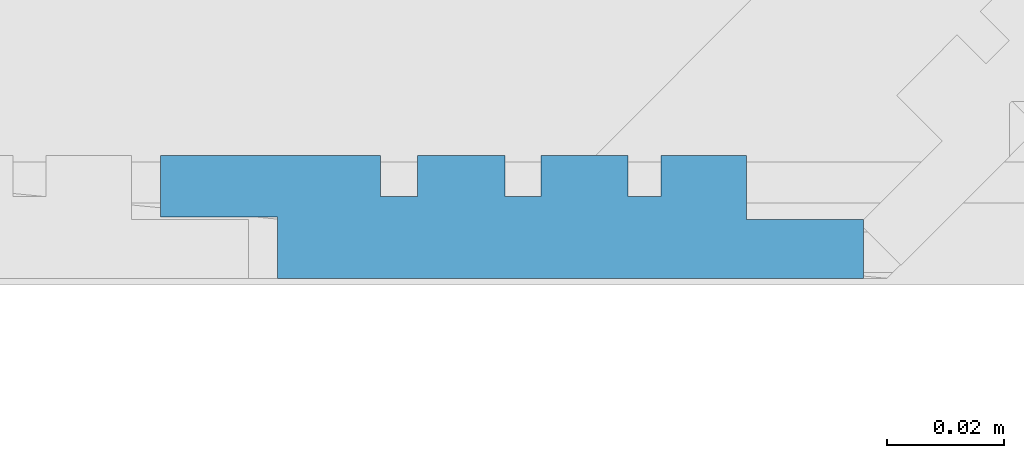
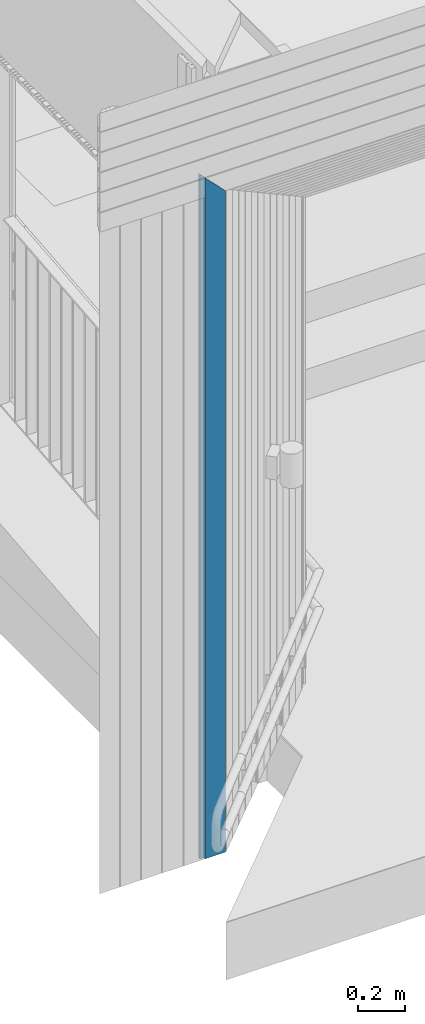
# One storey, part 97 of 418: 1 building element part, 1 element without a shape of its own.
"""IFC2X3 building model written with IfcOpenShell, lengths in millimetres."""

from ifc_helpers import new_model, entity, si_unit, converted_unit, derived_unit, money_unit, direction, frame, origin_with_axes, place, context, subcontext, project, spatial, polyline, outline, extrude, boolean, faceted_brep, material, type_object, element, aggregate, save


model = new_model("IFC2X3")

# Units and contexts
model_context = context("Model", 3, precision=0.01, world=origin_with_axes(), true_north=direction((0.0, 1.0)))
body_context = subcontext(model_context, "Body", "Model", "MODEL_VIEW")
ifc_project = project(units=[si_unit("LENGTHUNIT", "METRE", prefix="MILLI"), si_unit("AREAUNIT", "SQUARE_METRE"), si_unit("VOLUMEUNIT", "CUBIC_METRE"), converted_unit("PLANEANGLEUNIT", "DEGREE", entity("IfcPlaneAngleMeasure", 0.0174532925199), si_unit("PLANEANGLEUNIT", "RADIAN"), dimensions=[0, 0, 0, 0, 0, 0, 0]), si_unit("SOLIDANGLEUNIT", "STERADIAN"), money_unit("EUR"), converted_unit("TIMEUNIT", "Year", entity("IfcTimeMeasure", 31556926.0), si_unit("TIMEUNIT", "SECOND"), dimensions=[0, 0, 1, 0, 0, 0, 0]), si_unit("MASSUNIT", "GRAM", prefix="KILO"), si_unit("THERMODYNAMICTEMPERATUREUNIT", "DEGREE_CELSIUS"), si_unit("LUMINOUSINTENSITYUNIT", "LUMEN"), si_unit("ENERGYUNIT", "JOULE", prefix="MEGA"), derived_unit("THERMALCONDUCTANCEUNIT", [(si_unit("POWERUNIT", "WATT"), 1), (si_unit("LENGTHUNIT", "METRE"), -1), (si_unit("THERMODYNAMICTEMPERATUREUNIT", "KELVIN"), -1)]), derived_unit("SPECIFICHEATCAPACITYUNIT", [(si_unit("ENERGYUNIT", "JOULE"), 1), (si_unit("MASSUNIT", "GRAM", prefix="KILO"), -1), (si_unit("THERMODYNAMICTEMPERATUREUNIT", "KELVIN"), -1)]), derived_unit("MASSDENSITYUNIT", [(si_unit("MASSUNIT", "GRAM", prefix="KILO"), 1), (si_unit("VOLUMEUNIT", "CUBIC_METRE"), -1)])], contexts=[model_context])

# Site, building, storey
site_placement = place(None, origin_with_axes())
site = spatial("IfcSite", under=ifc_project, at=site_placement, Name="Paldiski mnt 245/1, Tallinn, Harjumaa", CompositionType="COMPLEX")
building_placement = place(site_placement, origin_with_axes())
building = spatial("IfcBuilding", under=site, at=building_placement, Name="RKAS Hoone üldnimetus (kasutust iseloomustav) -> IFC Project Manager -> SOLIBRI", CompositionType="ELEMENT")
storey_placement = place(building_placement, origin_with_axes())
storey = spatial("IfcBuildingStorey", under=building, at=storey_placement, Name="Esimene korrus", CompositionType="ELEMENT", Elevation=0.0)

# Proxy, building element part
building_element_proxy_type = type_object("IfcBuildingElementProxyType", Name="Laudis esiprofiil_01 21 x 622", PredefinedType="NOTDEFINED")
proxy_placement = place(storey_placement, frame((-45641.4622152, -18705.5141429, 0.0), z_axis=(0.0, 0.0, 1.0), x_axis=(0.0, 1.0, 0.0)))
proxy = element("IfcBuildingElementProxy", 1, at=proxy_placement, inside=storey, type_object=building_element_proxy_type, Name="Varikatus")
ifc_material = material(Name="Laudis 5072 Honka 45 horisontaalne raastas")
building_element_part_placement = place(proxy_placement, origin_with_axes())
building_element_part = element("IfcBuildingElementPart", 2, at=building_element_part_placement, material=ifc_material, Name="Laudis 5072 Honka 45 horisontaalne raastas", context=body_context, shape_type="CSG", body=[
    boolean("DIFFERENCE", boolean("DIFFERENCE", boolean("DIFFERENCE", boolean("DIFFERENCE", boolean("DIFFERENCE", boolean("DIFFERENCE", extrude(outline(polyline([(3.20348192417e-08, -520.971430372), (-10.5000010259, -520.971430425), (-10.5000005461, -500.971429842), (-20.9999998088, -500.971430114), (-21.0000010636, -538.497524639), (-14.0000005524, -538.497525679), (-14.0000003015, -544.860022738), (-20.99999981, -544.860022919), (-20.9999998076, -559.79914009), (-14.0000002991, -559.799139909), (-14.0000007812, -565.926080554), (-21.0000002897, -565.926080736), (-21.0000013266, -580.754573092), (-14.0000008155, -580.754574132), (-14.0000015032, -586.395242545), (-21.0000010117, -586.395242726), (-21.0000007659, -600.971429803), (-10.000001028, -600.971430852), (-10.0000002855, -620.971430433), (-7.63172636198e-07, -620.971430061), (3.20348192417e-08, -520.971430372)])), frame((0.0, 0.0, 0.0), z_axis=(0.0, 0.0, -1.0), x_axis=(-1.0, 0.0, 0.0)), (0.0, 0.0, -1.0), 4086.15997799), faceted_brep([(7.63172636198e-07, -515.971430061, 3569.02857112), (10.0000002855, -515.971430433, 3569.02857075), (10.0000002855, -515.971430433, 4086.15997799), (7.63172636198e-07, -515.971430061, 4086.15997799), (10.000001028, -495.971430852, 3589.02857033), (-3.20348192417e-08, -415.971430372, 3669.02857081), (10.5000010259, -415.971430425, 3669.02857076), (10.5000005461, -395.971429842, 3689.02857134), (20.9999998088, -395.971430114, 3689.02857107), (21.0000010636, -433.497524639, 3651.50247655), (14.0000005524, -433.497525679, 3651.50247551), (14.0000003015, -439.860022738, 3645.13997845), (20.99999981, -439.860022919, 3645.13997827), (20.9999998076, -454.79914009, 3630.20086109), (14.0000002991, -454.799139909, 3630.20086128), (14.0000007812, -460.926080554, 3624.07392063), (21.0000002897, -460.926080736, 3624.07392045), (21.0000013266, -475.754573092, 3609.24542809), (14.0000008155, -475.754574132, 3609.24542705), (14.0000015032, -481.395242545, 3603.60475864), (21.0000010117, -481.395242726, 3603.60475846), (21.0000007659, -495.971429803, 3589.02857138), (10.000001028, -495.971430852, 4086.15997799), (10.5000010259, -415.971430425, 4086.15997799), (-3.20348192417e-08, -415.971430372, 4086.15997799), (21.0000007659, -495.971429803, 4086.15997799), (21.0000010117, -481.395242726, 4086.15997799), (14.0000015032, -481.395242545, 4086.15997799), (14.0000008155, -475.754574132, 4086.15997799), (21.0000013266, -475.754573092, 4086.15997799), (21.0000002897, -460.926080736, 4086.15997799), (14.0000007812, -460.926080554, 4086.15997799), (14.0000002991, -454.799139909, 4086.15997799), (20.9999998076, -454.79914009, 4086.15997799), (20.99999981, -439.860022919, 4086.15997799), (14.0000003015, -439.860022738, 4086.15997799), (14.0000005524, -433.497525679, 4086.15997799), (21.0000010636, -433.497524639, 4086.15997799), (20.9999998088, -395.971430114, 4086.15997799), (10.5000005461, -395.971429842, 4086.15997799)], [[[0, 1, 2, 3]], [[4, 1, 0, 5, 6, 7, 8, 9, 10, 11, 12, 13, 14, 15, 16, 17, 18, 19, 20, 21]], [[1, 4, 22, 2]], [[23, 24, 3, 2, 22, 25, 26, 27, 28, 29, 30, 31, 32, 33, 34, 35, 36, 37, 38, 39]], [[5, 0, 3, 24]], [[6, 5, 24, 23]], [[7, 6, 23, 39]], [[8, 7, 39, 38]], [[9, 8, 38, 37]], [[10, 9, 37, 36]], [[11, 10, 36, 35]], [[12, 11, 35, 34]], [[13, 12, 34, 33]], [[14, 13, 33, 32]], [[15, 14, 32, 31]], [[16, 15, 31, 30]], [[17, 16, 30, 29]], [[18, 17, 29, 28]], [[19, 18, 28, 27]], [[20, 19, 27, 26]], [[21, 20, 26, 25]], [[4, 21, 25, 22]]])), faceted_brep([(7.63172636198e-07, -620.971430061, 3464.02857112), (10.0000002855, -620.971430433, 3464.02857075), (10.0000002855, -620.971430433, 4086.15997799), (7.63172636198e-07, -620.971430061, 4086.15997799), (10.000001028, -600.971430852, 3484.02857033), (-3.20348192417e-08, -520.971430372, 3564.02857081), (10.5000010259, -520.971430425, 3564.02857076), (10.5000005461, -500.971429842, 3584.02857134), (20.9999998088, -500.971430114, 3584.02857107), (21.0000010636, -538.497524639, 3546.50247655), (14.0000005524, -538.497525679, 3546.50247551), (14.0000003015, -544.860022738, 3540.13997845), (20.99999981, -544.860022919, 3540.13997827), (20.9999998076, -559.79914009, 3525.20086109), (14.0000002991, -559.799139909, 3525.20086128), (14.0000007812, -565.926080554, 3519.07392063), (21.0000002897, -565.926080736, 3519.07392045), (21.0000013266, -580.754573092, 3504.24542809), (14.0000008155, -580.754574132, 3504.24542705), (14.0000015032, -586.395242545, 3498.60475864), (21.0000010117, -586.395242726, 3498.60475846), (21.0000007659, -600.971429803, 3484.02857138), (10.000001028, -600.971430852, 4086.15997799), (10.5000010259, -520.971430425, 4086.15997799), (-3.20348192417e-08, -520.971430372, 4086.15997799), (21.0000007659, -600.971429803, 4086.15997799), (21.0000010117, -586.395242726, 4086.15997799), (14.0000015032, -586.395242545, 4086.15997799), (14.0000008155, -580.754574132, 4086.15997799), (21.0000013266, -580.754573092, 4086.15997799), (21.0000002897, -565.926080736, 4086.15997799), (14.0000007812, -565.926080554, 4086.15997799), (14.0000002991, -559.799139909, 4086.15997799), (20.9999998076, -559.79914009, 4086.15997799), (20.99999981, -544.860022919, 4086.15997799), (14.0000003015, -544.860022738, 4086.15997799), (14.0000005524, -538.497525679, 4086.15997799), (21.0000010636, -538.497524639, 4086.15997799), (20.9999998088, -500.971430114, 4086.15997799), (10.5000005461, -500.971429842, 4086.15997799)], [[[0, 1, 2, 3]], [[4, 1, 0, 5, 6, 7, 8, 9, 10, 11, 12, 13, 14, 15, 16, 17, 18, 19, 20, 21]], [[1, 4, 22, 2]], [[23, 24, 3, 2, 22, 25, 26, 27, 28, 29, 30, 31, 32, 33, 34, 35, 36, 37, 38, 39]], [[5, 0, 3, 24]], [[6, 5, 24, 23]], [[7, 6, 23, 39]], [[8, 7, 39, 38]], [[9, 8, 38, 37]], [[10, 9, 37, 36]], [[11, 10, 36, 35]], [[12, 11, 35, 34]], [[13, 12, 34, 33]], [[14, 13, 33, 32]], [[15, 14, 32, 31]], [[16, 15, 31, 30]], [[17, 16, 30, 29]], [[18, 17, 29, 28]], [[19, 18, 28, 27]], [[20, 19, 27, 26]], [[21, 20, 26, 25]], [[4, 21, 25, 22]]])), faceted_brep([(7.63172636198e-07, -305.971430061, 3779.02857112), (10.0000002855, -305.971430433, 3779.02857075), (10.0000002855, -305.971430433, 4086.15997799), (7.63172636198e-07, -305.971430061, 4086.15997799), (10.000001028, -285.971430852, 3799.02857033), (-3.20348192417e-08, -205.971430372, 3879.02857081), (10.5000010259, -205.971430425, 3879.02857076), (10.5000005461, -185.971429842, 3899.02857134), (20.9999998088, -185.971430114, 3899.02857107), (21.0000010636, -223.497524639, 3861.50247655), (14.0000005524, -223.497525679, 3861.50247551), (14.0000003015, -229.860022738, 3855.13997845), (20.99999981, -229.860022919, 3855.13997827), (20.9999998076, -244.79914009, 3840.20086109), (14.0000002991, -244.799139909, 3840.20086128), (14.0000007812, -250.926080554, 3834.07392063), (21.0000002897, -250.926080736, 3834.07392045), (21.0000013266, -265.754573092, 3819.24542809), (14.0000008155, -265.754574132, 3819.24542705), (14.0000015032, -271.395242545, 3813.60475864), (21.0000010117, -271.395242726, 3813.60475846), (21.0000007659, -285.971429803, 3799.02857138), (10.000001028, -285.971430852, 4086.15997799), (10.5000010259, -205.971430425, 4086.15997799), (-3.20348192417e-08, -205.971430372, 4086.15997799), (21.0000007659, -285.971429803, 4086.15997799), (21.0000010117, -271.395242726, 4086.15997799), (14.0000015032, -271.395242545, 4086.15997799), (14.0000008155, -265.754574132, 4086.15997799), (21.0000013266, -265.754573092, 4086.15997799), (21.0000002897, -250.926080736, 4086.15997799), (14.0000007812, -250.926080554, 4086.15997799), (14.0000002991, -244.799139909, 4086.15997799), (20.9999998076, -244.79914009, 4086.15997799), (20.99999981, -229.860022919, 4086.15997799), (14.0000003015, -229.860022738, 4086.15997799), (14.0000005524, -223.497525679, 4086.15997799), (21.0000010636, -223.497524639, 4086.15997799), (20.9999998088, -185.971430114, 4086.15997799), (10.5000005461, -185.971429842, 4086.15997799)], [[[0, 1, 2, 3]], [[4, 1, 0, 5, 6, 7, 8, 9, 10, 11, 12, 13, 14, 15, 16, 17, 18, 19, 20, 21]], [[1, 4, 22, 2]], [[23, 24, 3, 2, 22, 25, 26, 27, 28, 29, 30, 31, 32, 33, 34, 35, 36, 37, 38, 39]], [[5, 0, 3, 24]], [[6, 5, 24, 23]], [[7, 6, 23, 39]], [[8, 7, 39, 38]], [[9, 8, 38, 37]], [[10, 9, 37, 36]], [[11, 10, 36, 35]], [[12, 11, 35, 34]], [[13, 12, 34, 33]], [[14, 13, 33, 32]], [[15, 14, 32, 31]], [[16, 15, 31, 30]], [[17, 16, 30, 29]], [[18, 17, 29, 28]], [[19, 18, 28, 27]], [[20, 19, 27, 26]], [[21, 20, 26, 25]], [[4, 21, 25, 22]]])), faceted_brep([(7.63172636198e-07, -410.971430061, 3674.02857112), (10.0000002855, -410.971430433, 3674.02857075), (10.0000002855, -410.971430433, 4086.15997799), (7.63172636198e-07, -410.971430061, 4086.15997799), (10.000001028, -390.971430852, 3694.02857033), (-3.20348192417e-08, -310.971430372, 3774.02857081), (10.5000010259, -310.971430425, 3774.02857076), (10.5000005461, -290.971429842, 3794.02857134), (20.9999998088, -290.971430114, 3794.02857107), (21.0000010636, -328.497524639, 3756.50247655), (14.0000005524, -328.497525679, 3756.50247551), (14.0000003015, -334.860022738, 3750.13997845), (20.99999981, -334.860022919, 3750.13997827), (20.9999998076, -349.79914009, 3735.20086109), (14.0000002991, -349.799139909, 3735.20086128), (14.0000007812, -355.926080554, 3729.07392063), (21.0000002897, -355.926080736, 3729.07392045), (21.0000013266, -370.754573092, 3714.24542809), (14.0000008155, -370.754574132, 3714.24542705), (14.0000015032, -376.395242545, 3708.60475864), (21.0000010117, -376.395242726, 3708.60475846), (21.0000007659, -390.971429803, 3694.02857138), (10.000001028, -390.971430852, 4086.15997799), (10.5000010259, -310.971430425, 4086.15997799), (-3.20348192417e-08, -310.971430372, 4086.15997799), (21.0000007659, -390.971429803, 4086.15997799), (21.0000010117, -376.395242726, 4086.15997799), (14.0000015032, -376.395242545, 4086.15997799), (14.0000008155, -370.754574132, 4086.15997799), (21.0000013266, -370.754573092, 4086.15997799), (21.0000002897, -355.926080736, 4086.15997799), (14.0000007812, -355.926080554, 4086.15997799), (14.0000002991, -349.799139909, 4086.15997799), (20.9999998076, -349.79914009, 4086.15997799), (20.99999981, -334.860022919, 4086.15997799), (14.0000003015, -334.860022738, 4086.15997799), (14.0000005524, -328.497525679, 4086.15997799), (21.0000010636, -328.497524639, 4086.15997799), (20.9999998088, -290.971430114, 4086.15997799), (10.5000005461, -290.971429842, 4086.15997799)], [[[0, 1, 2, 3]], [[4, 1, 0, 5, 6, 7, 8, 9, 10, 11, 12, 13, 14, 15, 16, 17, 18, 19, 20, 21]], [[1, 4, 22, 2]], [[23, 24, 3, 2, 22, 25, 26, 27, 28, 29, 30, 31, 32, 33, 34, 35, 36, 37, 38, 39]], [[5, 0, 3, 24]], [[6, 5, 24, 23]], [[7, 6, 23, 39]], [[8, 7, 39, 38]], [[9, 8, 38, 37]], [[10, 9, 37, 36]], [[11, 10, 36, 35]], [[12, 11, 35, 34]], [[13, 12, 34, 33]], [[14, 13, 33, 32]], [[15, 14, 32, 31]], [[16, 15, 31, 30]], [[17, 16, 30, 29]], [[18, 17, 29, 28]], [[19, 18, 28, 27]], [[20, 19, 27, 26]], [[21, 20, 26, 25]], [[4, 21, 25, 22]]])), faceted_brep([(1.4387921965e-06, -95.9714304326, 3989.02857075), (10.0000000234, -95.9714304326, 3989.02857075), (10.0000000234, -95.9714304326, 4086.15997799), (1.4387921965e-06, -95.9714304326, 4086.15997799), (10.0000014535, -75.9714304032, 4009.02857078), (-8.28137558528e-09, 1.13997680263, 4086.13997799), (14.0000008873, -12.860024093, 4072.13997709), (14.0000008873, -19.8600231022, 4065.13997808), (20.9999998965, -19.8600231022, 4065.13997808), (20.9999998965, -34.7991407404, 4050.20086044), (14.0000008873, -34.7991393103, 4050.20086187), (14.0000008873, -40.9260801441, 4044.07392104), (20.9999998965, -40.9260801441, 4044.07392104), (21.0000013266, -55.7545733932, 4029.24542779), (14.0000008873, -55.7545748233, 4029.24542636), (14.0000008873, -61.3952431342, 4023.60475805), (21.0000013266, -61.3952431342, 4023.60475805), (21.0000013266, -75.9714304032, 4009.02857078), (10.0000014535, -75.9714304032, 4086.15997799), (14.0000008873, -55.7545748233, 4086.15997799), (21.0000013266, -55.7545733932, 4086.15997799), (20.9999998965, -40.9260801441, 4086.15997799), (14.0000008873, -40.9260801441, 4086.15997799), (14.0000008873, -34.7991393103, 4086.15997799), (20.9999998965, -34.7991407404, 4086.15997799), (20.9999998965, -19.8600231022, 4086.15997799), (14.0000008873, -19.8600231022, 4086.15997799), (14.0000008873, -12.860024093, 4086.15997799), (-8.28137558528e-09, 1.13997680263, 4086.15997799), (21.0000013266, -75.9714304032, 4086.15997799), (21.0000013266, -61.3952431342, 4086.15997799), (14.0000008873, -61.3952431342, 4086.15997799)], [[[0, 1, 2, 3]], [[4, 1, 0, 5, 6, 7, 8, 9, 10, 11, 12, 13, 14, 15, 16, 17]], [[1, 4, 18, 2]], [[19, 20, 21, 22, 23, 24, 25, 26, 27, 28, 3, 2, 18, 29, 30, 31]], [[5, 0, 3, 28]], [[6, 5, 28, 27]], [[7, 6, 27, 26]], [[8, 7, 26, 25]], [[9, 8, 25, 24]], [[10, 9, 24, 23]], [[11, 10, 23, 22]], [[12, 11, 22, 21]], [[13, 12, 21, 20]], [[14, 13, 20, 19]], [[15, 14, 19, 31]], [[16, 15, 31, 30]], [[17, 16, 30, 29]], [[4, 17, 29, 18]]])), faceted_brep([(7.63172636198e-07, -200.971430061, 3884.02857112), (10.0000002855, -200.971430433, 3884.02857075), (10.0000002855, -200.971430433, 4086.15997799), (7.63172636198e-07, -200.971430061, 4086.15997799), (10.000001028, -180.971430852, 3904.02857033), (-3.20348192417e-08, -100.971430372, 3984.02857081), (10.5000010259, -100.971430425, 3984.02857076), (10.5000005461, -80.9714298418, 4004.02857134), (20.9999998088, -80.9714301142, 4004.02857107), (21.0000010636, -118.497524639, 3966.50247655), (14.0000005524, -118.497525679, 3966.50247551), (14.0000003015, -124.860022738, 3960.13997845), (20.99999981, -124.860022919, 3960.13997827), (20.9999998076, -139.79914009, 3945.20086109), (14.0000002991, -139.799139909, 3945.20086128), (14.0000007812, -145.926080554, 3939.07392063), (21.0000002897, -145.926080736, 3939.07392045), (21.0000013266, -160.754573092, 3924.24542809), (14.0000008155, -160.754574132, 3924.24542705), (14.0000015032, -166.395242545, 3918.60475864), (21.0000010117, -166.395242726, 3918.60475846), (21.0000007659, -180.971429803, 3904.02857138), (10.000001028, -180.971430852, 4086.15997799), (10.5000010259, -100.971430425, 4086.15997799), (-3.20348192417e-08, -100.971430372, 4086.15997799), (21.0000007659, -180.971429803, 4086.15997799), (21.0000010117, -166.395242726, 4086.15997799), (14.0000015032, -166.395242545, 4086.15997799), (14.0000008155, -160.754574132, 4086.15997799), (21.0000013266, -160.754573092, 4086.15997799), (21.0000002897, -145.926080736, 4086.15997799), (14.0000007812, -145.926080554, 4086.15997799), (14.0000002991, -139.799139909, 4086.15997799), (20.9999998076, -139.79914009, 4086.15997799), (20.99999981, -124.860022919, 4086.15997799), (14.0000003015, -124.860022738, 4086.15997799), (14.0000005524, -118.497525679, 4086.15997799), (21.0000010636, -118.497524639, 4086.15997799), (20.9999998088, -80.9714301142, 4086.15997799), (10.5000005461, -80.9714298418, 4086.15997799)], [[[0, 1, 2, 3]], [[4, 1, 0, 5, 6, 7, 8, 9, 10, 11, 12, 13, 14, 15, 16, 17, 18, 19, 20, 21]], [[1, 4, 22, 2]], [[23, 24, 3, 2, 22, 25, 26, 27, 28, 29, 30, 31, 32, 33, 34, 35, 36, 37, 38, 39]], [[5, 0, 3, 24]], [[6, 5, 24, 23]], [[7, 6, 23, 39]], [[8, 7, 39, 38]], [[9, 8, 38, 37]], [[10, 9, 37, 36]], [[11, 10, 36, 35]], [[12, 11, 35, 34]], [[13, 12, 34, 33]], [[14, 13, 33, 32]], [[15, 14, 32, 31]], [[16, 15, 31, 30]], [[17, 16, 30, 29]], [[18, 17, 29, 28]], [[19, 18, 28, 27]], [[20, 19, 27, 26]], [[21, 20, 26, 25]], [[4, 21, 25, 22]]])),
])
aggregate(proxy, [building_element_part])

save(model, "model.ifc")
